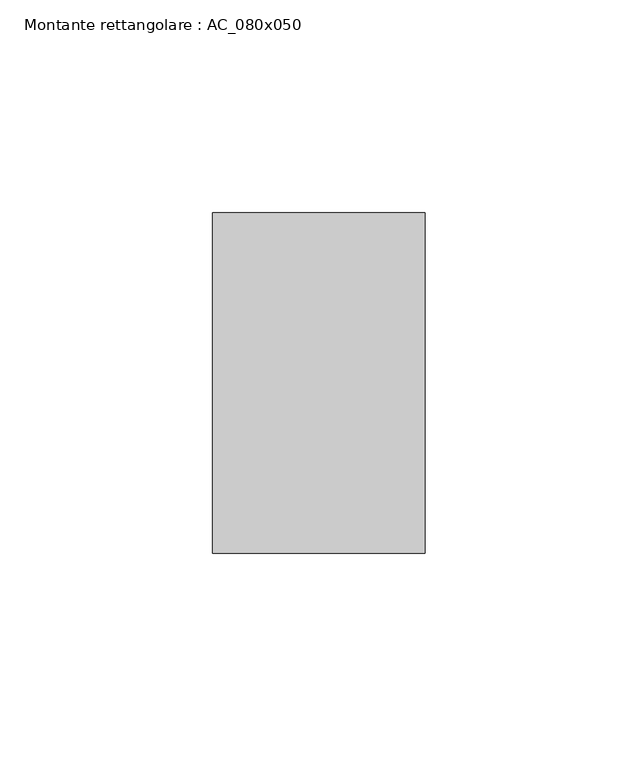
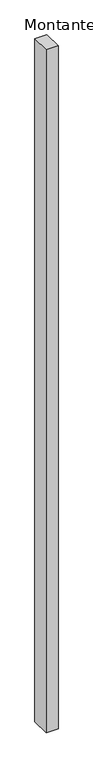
"""IFC4 building model written with IfcOpenShell, lengths in millimetres: member geometry, Montante rettangolare : AC_080x050."""

import ifcopenshell
import ifcopenshell.guid

model = None  # the IFC model being written
_history = None  # IfcOwnerHistory: only IFC2X3 demands one
_inside = {}  # id of a spatial element -> (the spatial element, [elements in it])
_under = {}  # id of a project, library or spatial element -> (it, [spatial elements below it])
_declared = {}  # id of a project -> (the project, [libraries it declares])
_typed = {}  # id of a type object -> (the type object, [elements of that type])
_made_of = {}  # id of a material, layer set ... -> (it, [elements and type objects made of it])


def new_model(schema):
    """Start an empty IFC model of exactly this schema.

    Asked for "IFC4X3", IfcOpenShell would pick the latest addendum, in which some entities
    have other attributes; the version numbers below select the first issue.
    IFC2X3 requires an IfcOwnerHistory on every rooted entity: one is made here for all.
    """
    global model, _history
    if schema == "IFC4X3":
        model = ifcopenshell.file(schema_version=(4, 3, 0, 0))
    else:
        model = ifcopenshell.file(schema=schema)
    _inside.clear()
    _under.clear()
    _declared.clear()
    _typed.clear()
    _made_of.clear()
    _history = None
    if model.schema == "IFC2X3":
        org = make("IfcOrganization", Name="unknown")
        user = make(
            "IfcPersonAndOrganization",
            ThePerson=make("IfcPerson", FamilyName="unknown"),
            TheOrganization=org,
        )
        app = make(
            "IfcApplication",
            ApplicationDeveloper=org,
            Version="unknown",
            ApplicationFullName="unknown",
            ApplicationIdentifier="unknown",
        )
        _history = make(
            "IfcOwnerHistory",
            OwningUser=user,
            OwningApplication=app,
            ChangeAction="ADDED",
            CreationDate=0,
        )
    return model


def make(cls, **values):
    """One entity of the class cls with the attributes given. An attribute that is None is left unset."""
    return model.create_entity(
        cls, **{name: value for name, value in values.items() if value is not None}
    )


def rooted(cls, **values):
    """An entity with a GlobalId (a new one), such as an element, a storey or a relation."""
    return make(cls, GlobalId=ifcopenshell.guid.new(), OwnerHistory=_history, **values)


def si_unit(unit_type, name, prefix=None):
    """IfcSIUnit, for example si_unit("LENGTHUNIT", "METRE", prefix="MILLI")."""
    return make("IfcSIUnit", UnitType=unit_type, Prefix=prefix, Name=name)


def assignment(units):
    """IfcUnitAssignment: the units of a project."""
    return None if units is None else make("IfcUnitAssignment", Units=units)


def point(xyz):
    """IfcCartesianPoint."""
    return None if xyz is None else make("IfcCartesianPoint", Coordinates=xyz)


def direction(xyz):
    """IfcDirection."""
    return None if xyz is None else make("IfcDirection", DirectionRatios=xyz)


def frame(location, z_axis=None, x_axis=None):
    """IfcAxis2Placement3D, a coordinate frame: its origin and axes. An axis left out is left unset."""
    return make(
        "IfcAxis2Placement3D",
        Location=point(location),
        Axis=direction(z_axis),
        RefDirection=direction(x_axis),
    )


def origin():
    """The frame at (0, 0, 0) with its axes left unset."""
    return frame((0.0, 0.0, 0.0))


def place(relative_to, where):
    """IfcLocalPlacement: puts the frame where relative to a parent placement (None: the world)."""
    return make(
        "IfcLocalPlacement", PlacementRelTo=relative_to, RelativePlacement=where
    )


def context(
    kind, dimensions, precision=None, world=None, true_north=None, identifier=None
):
    """IfcGeometricRepresentationContext, for example the 3D "Model" context."""
    return make(
        "IfcGeometricRepresentationContext",
        ContextIdentifier=identifier,
        ContextType=kind,
        CoordinateSpaceDimension=dimensions,
        Precision=precision,
        WorldCoordinateSystem=world,
        TrueNorth=true_north,
    )


def project(units=None, contexts=None):
    """IfcProject with its units and contexts."""
    return rooted(
        "IfcProject",
        Name="project",
        RepresentationContexts=contexts,
        UnitsInContext=assignment(units),
    )


def spatial(cls, under=None, at=None, **own):
    """A site, building, storey or space (cls), placed at a placement, below another one or the project."""
    s = rooted(cls, ObjectPlacement=at, **own)
    if under is not None:
        _under.setdefault(under.id(), (under, []))[1].append(s)
    return s


def polyline(points):
    """IfcPolyline through the points."""
    return make("IfcPolyline", Points=[point(p) for p in points])


def outline(outer, holes=None, kind="AREA"):
    """IfcArbitraryClosedProfileDef: a profile drawn as a closed curve; with holes, ...WithVoids."""
    if holes is None:
        return make("IfcArbitraryClosedProfileDef", ProfileType=kind, OuterCurve=outer)
    return make(
        "IfcArbitraryProfileDefWithVoids",
        ProfileType=kind,
        OuterCurve=outer,
        InnerCurves=holes,
    )


def extrude(swept, where, along, depth):
    """IfcExtrudedAreaSolid: the profile swept, set in the frame where, extruded along a direction by depth."""
    return make(
        "IfcExtrudedAreaSolid",
        SweptArea=swept,
        Position=where,
        ExtrudedDirection=direction(along),
        Depth=depth,
    )


def shape(context_of_items, identifier, shape_type, items):
    """IfcShapeRepresentation: the items that make up one representation, for example the "Body"."""
    return make(
        "IfcShapeRepresentation",
        ContextOfItems=context_of_items,
        RepresentationIdentifier=identifier,
        RepresentationType=shape_type,
        Items=items,
    )


def source(mapping_origin, context_of_items, identifier, shape_type, items):
    """IfcRepresentationMap: a shape defined once, which mapped items show again and again."""
    return make(
        "IfcRepresentationMap",
        MappingOrigin=mapping_origin,
        MappedRepresentation=shape(context_of_items, identifier, shape_type, items),
    )


def transform(
    local_origin,
    x_axis=None,
    y_axis=None,
    z_axis=None,
    scale=None,
    scale2=None,
    scale3=None,
    uniform=True,
):
    """IfcCartesianTransformationOperator3D, or its non-uniform kind. x_axis, y_axis, z_axis: its Axis1, 2, 3."""
    if uniform:
        return make(
            "IfcCartesianTransformationOperator3D",
            Axis1=direction(x_axis),
            Axis2=direction(y_axis),
            LocalOrigin=point(local_origin),
            Scale=scale,
            Axis3=direction(z_axis),
        )
    return make(
        "IfcCartesianTransformationOperator3DnonUniform",
        Axis1=direction(x_axis),
        Axis2=direction(y_axis),
        LocalOrigin=point(local_origin),
        Scale=scale,
        Axis3=direction(z_axis),
        Scale2=scale2,
        Scale3=scale3,
    )


def mapped(mapping_source, mapping_target):
    """IfcMappedItem: shows the shape of a source again, moved by a transform."""
    return make(
        "IfcMappedItem", MappingSource=mapping_source, MappingTarget=mapping_target
    )


def made_of(thing, what):
    """Note that an element or type object is made of a material, layer set ...; save() writes the relation."""
    if what is not None:
        _made_of.setdefault(what.id(), (what, []))[1].append(thing)
    return thing


def element(
    cls,
    number,
    at=None,
    inside=None,
    cuts=None,
    type_object=None,
    material=None,
    context=None,
    identifier="Body",
    shape_type=None,
    held_by="IfcProductDefinitionShape",
    body=None,
    shapes=None,
    **own,
):
    """One element of the class cls, such as IfcWall. Its Tag is "e" and its number.

    at: its placement. inside: the storey or other place that contains it. cuts: it is an
    opening in that element (IfcRelVoidsElement). A single representation is given by context,
    identifier, shape_type and body (its items); several are given by shapes. held_by: the class
    of the entity that holds the representations. save() writes the other relations.
    """
    e = rooted(cls, Tag="e%d" % number, ObjectPlacement=at, **own)
    if body is not None:
        shapes = [shape(context, identifier, shape_type, body)]
    if shapes is not None:
        e.Representation = make(held_by, Representations=shapes)
    if inside is not None:
        _inside.setdefault(inside.id(), (inside, []))[1].append(e)
    if cuts is not None:
        rooted(
            "IfcRelVoidsElement", RelatingBuildingElement=cuts, RelatedOpeningElement=e
        )
    if type_object is not None:
        _typed.setdefault(type_object.id(), (type_object, []))[1].append(e)
    return made_of(e, material)


def aggregate(whole, parts):
    """IfcRelAggregates: a whole, such as a stair, and the parts it consists of."""
    return rooted("IfcRelAggregates", RelatingObject=whole, RelatedObjects=parts)


def save(model, path):
    """Write the relations noted so far, then the file.

    IfcRelAggregates (storeys below a building ...), IfcRelContainedInSpatialStructure (elements
    in a storey), IfcRelDefinesByType, IfcRelAssociatesMaterial and IfcRelDeclares: one each for
    every whole, place, type object, material and project.
    """
    for whole, parts in _under.values():
        aggregate(whole, parts)
    for where, things in _inside.values():
        rooted(
            "IfcRelContainedInSpatialStructure",
            RelatedElements=things,
            RelatingStructure=where,
        )
    for kind, things in _typed.values():
        rooted("IfcRelDefinesByType", RelatedObjects=things, RelatingType=kind)
    for what, things in _made_of.values():
        rooted("IfcRelAssociatesMaterial", RelatedObjects=things, RelatingMaterial=what)
    for by, libraries in _declared.values():
        rooted("IfcRelDeclares", RelatingContext=by, RelatedDefinitions=libraries)
    model.write(path)


def montante_rettangolare_ac_080x050_40be3790(model_context):
    return source(origin(), model_context, "Body", "SweptSolid", [
        extrude(outline(polyline([(0.0, 40.0), (0.0, -40.0), (-50.0, -40.0), (-50.0, 40.0), (0.0, 40.0)])), frame((0.0, 0.0, -3000.0), z_axis=(0.0, 0.0, 1.0), x_axis=(1.0, 0.0, 0.0)), (0.0, 0.0, 1.0), 3000.0),
    ])


if __name__ == "__main__":
    model = new_model("IFC4")
    model_context = context("Model", 3, world=origin())
    ifc_project = project(units=[si_unit("LENGTHUNIT", "METRE", prefix="MILLI")], contexts=[model_context])
    site = spatial("IfcSite", under=ifc_project)
    building = spatial("IfcBuilding", under=site)
    placement = place(None, origin())
    montante_rettangolare_ac_080x050_shape = montante_rettangolare_ac_080x050_40be3790(model_context)
    element("IfcMember", 1, ObjectType="Montante rettangolare : AC_080x050", at=placement, inside=building, context=model_context, shape_type="MappedRepresentation", body=[
        mapped(montante_rettangolare_ac_080x050_shape, transform((0.0, 0.0, 0.0), x_axis=(1.0, 0.0, 0.0), y_axis=(0.0, 1.0, 0.0), z_axis=(0.0, 0.0, 1.0))),
    ])
    save(model, "model.ifc")
